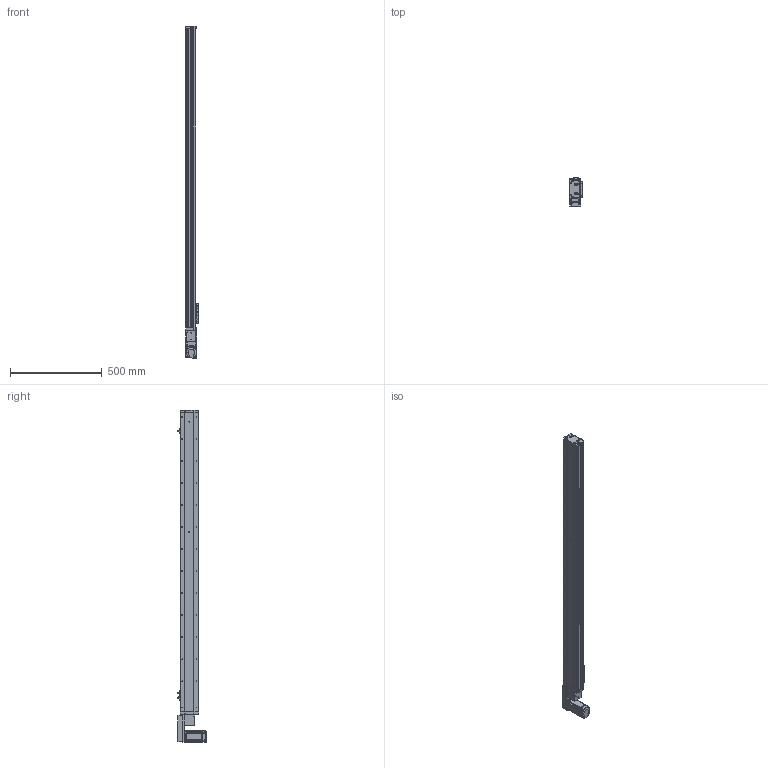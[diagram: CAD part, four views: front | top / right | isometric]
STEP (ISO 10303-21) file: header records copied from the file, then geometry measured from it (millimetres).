
FILE_DESCRIPTION (( 'STEP AP214' ), '1' );
FILE_NAME ('KSD100B-S1450-MLB-CR.STEP', '2019-11-13T01:16:16', ( '微软用户' ), ( '微软中国' ), 'SwSTEP 2.0', 'SolidWorks 2014', '' );
FILE_SCHEMA (( 'AUTOMOTIVE_DESIGN' ));
Length unit declared in the file: millimetre
Products named in the file (15): 100宽端板同步带全封闭; 100宽滚珠螺姆安装板1防护罩; 100宽滚珠螺姆安装板1; MHMD042G1CA_2_03; 100遵裔啣揤啣; 100遵裔啣1450俴最; 100宽侧板1450行程同步带; 100宽底板全封闭1450行程同步带; KSD100B-S1450-MLB-CR; 悵誘欶奻狟殏; 100宽马达安装板连板上下折丝杆同步带; 感应片100宽全封闭; U倰嫖萇EEㄜSX672; 100宽马达安装板同步带左; 100遵鎮湛假蚾啣蜊
Assembly tree (18 placements, depth 2):
  KSD100B-S1450-MLB-CR
    100宽底板全封闭1450行程同步带
    100宽侧板1450行程同步带  x2
    100遵裔啣1450俴最
    100遵裔啣揤啣  x2
    100宽滚珠螺姆安装板1
    100宽滚珠螺姆安装板1防护罩
    100宽端板同步带全封闭
    100遵鎮湛假蚾啣蜊
    100宽马达安装板同步带左
    U倰嫖萇EEㄜSX672  x3
    感应片100宽全封闭
    100宽马达安装板连板上下折丝杆同步带
    悵誘欶奻狟殏
    MHMD042G1CA_2_03
Bounding box: 70 x 156.2 x 1807 mm (x, y, z)
Volume: 3304964.3 mm3; surface area: 1447417.4 mm2
Topology: 17 solids, 18 shells, 1961 faces, 5484 edges, 3469 vertices
Faces by surface type: cylinder 897, plane 741, cone 303, bspline 20
Entity records: 69652 total; most frequent: CARTESIAN_POINT 10802, DIRECTION 9538, ORIENTED_EDGE 8756, EDGE_CURVE 4450, AXIS2_PLACEMENT_3D 3487, VERTEX_POINT 2947, LINE 2564, VECTOR 2564
